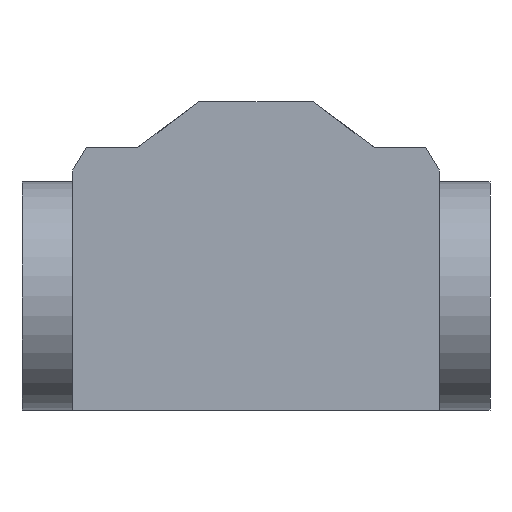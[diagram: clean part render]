
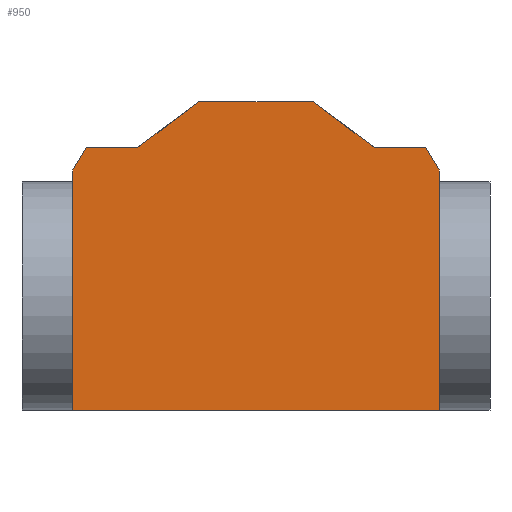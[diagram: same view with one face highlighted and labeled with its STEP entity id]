
A CAD part, left-side view. The second image highlights one B-rep face of the part: STEP entity #950.
In plain terms, the highlighted planar face has unit normal (-1, 0, 0).
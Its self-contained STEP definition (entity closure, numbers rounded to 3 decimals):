
#598=FACE_OUTER_BOUND('',#2786,.T.);
#950=ADVANCED_FACE('',(#598),#1603,.F.);
#1603=PLANE('',#10455);
#2786=EDGE_LOOP('',(#4420,#4421,#4422,#4423,#4424,#4425,#4426,#4427,#4428,
#4429));
#4420=ORIENTED_EDGE('',*,*,#7657,.F.);
#4421=ORIENTED_EDGE('',*,*,#7797,.F.);
#4422=ORIENTED_EDGE('',*,*,#7795,.F.);
#4423=ORIENTED_EDGE('',*,*,#7793,.F.);
#4424=ORIENTED_EDGE('',*,*,#7789,.F.);
#4425=ORIENTED_EDGE('',*,*,#7787,.F.);
#4426=ORIENTED_EDGE('',*,*,#7783,.F.);
#4427=ORIENTED_EDGE('',*,*,#7781,.F.);
#4428=ORIENTED_EDGE('',*,*,#7701,.F.);
#4429=ORIENTED_EDGE('',*,*,#7777,.F.);
#6705=VERTEX_POINT('',#14533);
#6706=VERTEX_POINT('',#14534);
#6749=VERTEX_POINT('',#14622);
#6750=VERTEX_POINT('',#14623);
#6826=VERTEX_POINT('',#14782);
#6827=VERTEX_POINT('',#14786);
#6830=VERTEX_POINT('',#14794);
#6831=VERTEX_POINT('',#14798);
#6834=VERTEX_POINT('',#14806);
#6835=VERTEX_POINT('',#14810);
#7657=EDGE_CURVE('',#6705,#6706,#8868,.T.);
#7701=EDGE_CURVE('',#6749,#6750,#8888,.T.);
#7777=EDGE_CURVE('',#6706,#6749,#8924,.T.);
#7781=EDGE_CURVE('',#6750,#6826,#8925,.T.);
#7783=EDGE_CURVE('',#6826,#6827,#8927,.T.);
#7787=EDGE_CURVE('',#6827,#6830,#8929,.T.);
#7789=EDGE_CURVE('',#6830,#6831,#8931,.T.);
#7793=EDGE_CURVE('',#6831,#6834,#8933,.T.);
#7795=EDGE_CURVE('',#6834,#6835,#8935,.T.);
#7797=EDGE_CURVE('',#6835,#6705,#8937,.T.);
#8868=LINE('',#14532,#9618);
#8888=LINE('',#14621,#9638);
#8924=LINE('',#14773,#9674);
#8925=LINE('',#14781,#9675);
#8927=LINE('',#14785,#9677);
#8929=LINE('',#14793,#9679);
#8931=LINE('',#14797,#9681);
#8933=LINE('',#14805,#9683);
#8935=LINE('',#14809,#9685);
#8937=LINE('',#14813,#9687);
#9618=VECTOR('',#11521,1.);
#9638=VECTOR('',#11591,1.);
#9674=VECTOR('',#11711,1.);
#9675=VECTOR('',#11720,1.);
#9677=VECTOR('',#11724,1.);
#9679=VECTOR('',#11732,1.);
#9681=VECTOR('',#11736,1.);
#9683=VECTOR('',#11744,1.);
#9685=VECTOR('',#11748,1.);
#9687=VECTOR('',#11752,1.);
#10455=AXIS2_PLACEMENT_3D('',#14815,#11755,#11756);
#11521=DIRECTION('',(0.,0.,-1.));
#11591=DIRECTION('',(0.,0.,1.));
#11711=DIRECTION('',(0.,1.,0.));
#11720=DIRECTION('',(0.,-0.518,0.856));
#11724=DIRECTION('',(0.,-1.,0.));
#11732=DIRECTION('',(0.,-0.8,0.601));
#11736=DIRECTION('',(0.,-1.,0.));
#11744=DIRECTION('',(0.,-0.8,-0.601));
#11748=DIRECTION('',(0.,-1.,0.));
#11752=DIRECTION('',(0.,-0.518,-0.856));
#11755=DIRECTION('',(1.,0.,0.));
#11756=DIRECTION('',(0.,0.,-1.));
#14532=CARTESIAN_POINT('',(0.,-80.5,39.803));
#14533=CARTESIAN_POINT('',(0.,-80.5,39.803));
#14534=CARTESIAN_POINT('',(0.,-80.5,-64.924));
#14621=CARTESIAN_POINT('',(0.,80.5,-64.924));
#14622=CARTESIAN_POINT('',(0.,80.5,-64.924));
#14623=CARTESIAN_POINT('',(0.,80.5,39.803));
#14773=CARTESIAN_POINT('',(0.,-80.5,-64.924));
#14781=CARTESIAN_POINT('',(0.,80.5,39.803));
#14782=CARTESIAN_POINT('',(0.,74.283,50.076));
#14785=CARTESIAN_POINT('',(0.,74.283,50.076));
#14786=CARTESIAN_POINT('',(0.,51.797,50.076));
#14793=CARTESIAN_POINT('',(0.,51.797,50.076));
#14794=CARTESIAN_POINT('',(0.,25.166,70.076));
#14797=CARTESIAN_POINT('',(0.,25.166,70.076));
#14798=CARTESIAN_POINT('',(0.,-25.166,70.076));
#14805=CARTESIAN_POINT('',(0.,-25.166,70.076));
#14806=CARTESIAN_POINT('',(0.,-51.797,50.076));
#14809=CARTESIAN_POINT('',(0.,-51.797,50.076));
#14810=CARTESIAN_POINT('',(0.,-74.283,50.076));
#14813=CARTESIAN_POINT('',(0.,-74.283,50.076));
#14815=CARTESIAN_POINT('',(0.,0.,0.));
